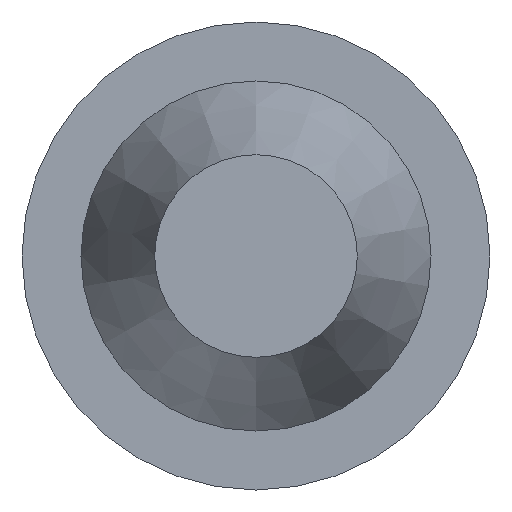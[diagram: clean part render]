
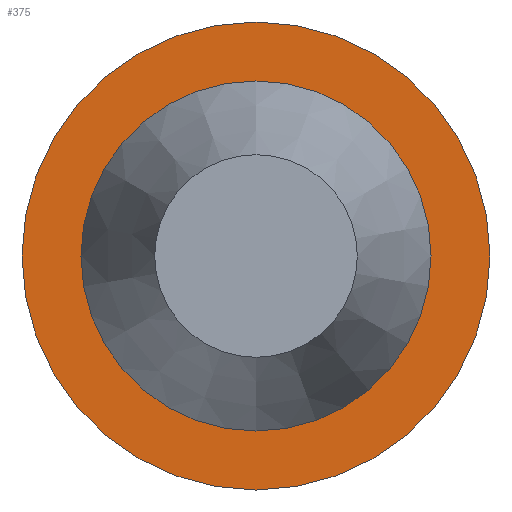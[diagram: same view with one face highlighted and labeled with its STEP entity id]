
A CAD part, left-side view. The second image highlights one B-rep face of the part: STEP entity #375.
In plain terms, the highlighted planar face has unit normal (-1, 0, 0).
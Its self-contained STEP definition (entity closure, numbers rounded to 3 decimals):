
#282=PLANE('',#1197);
#375=ADVANCED_FACE('',(#449,#450),#282,.T.);
#449=FACE_BOUND('',#484,.T.);
#450=FACE_BOUND('',#485,.T.);
#484=EDGE_LOOP('',(#583));
#485=EDGE_LOOP('',(#584));
#583=ORIENTED_EDGE('',*,*,#987,.T.);
#584=ORIENTED_EDGE('',*,*,#988,.F.);
#874=VERTEX_POINT('',#6292);
#875=VERTEX_POINT('',#6295);
#987=EDGE_CURVE('',#874,#874,#1135,.T.);
#988=EDGE_CURVE('',#875,#875,#1136,.T.);
#1135=CIRCLE('',#1194,4.75);
#1136=CIRCLE('',#1196,6.35);
#1194=AXIS2_PLACEMENT_3D('',#6291,#1329,#1330);
#1196=AXIS2_PLACEMENT_3D('',#6294,#1333,#1334);
#1197=AXIS2_PLACEMENT_3D('',#6296,#1335,#1336);
#1329=DIRECTION('',(1.,0.,0.));
#1330=DIRECTION('',(0.,0.,-1.));
#1333=DIRECTION('',(1.,0.,0.));
#1334=DIRECTION('',(0.,0.,-1.));
#1335=DIRECTION('',(-1.,0.,0.));
#1336=DIRECTION('',(0.,0.,1.));
#6291=CARTESIAN_POINT('',(2587.122,432.123,0.));
#6292=CARTESIAN_POINT('',(2587.122,432.123,-4.75));
#6294=CARTESIAN_POINT('',(2587.122,432.123,0.));
#6295=CARTESIAN_POINT('',(2587.122,432.123,-6.35));
#6296=CARTESIAN_POINT('',(2587.122,425.773,0.));
